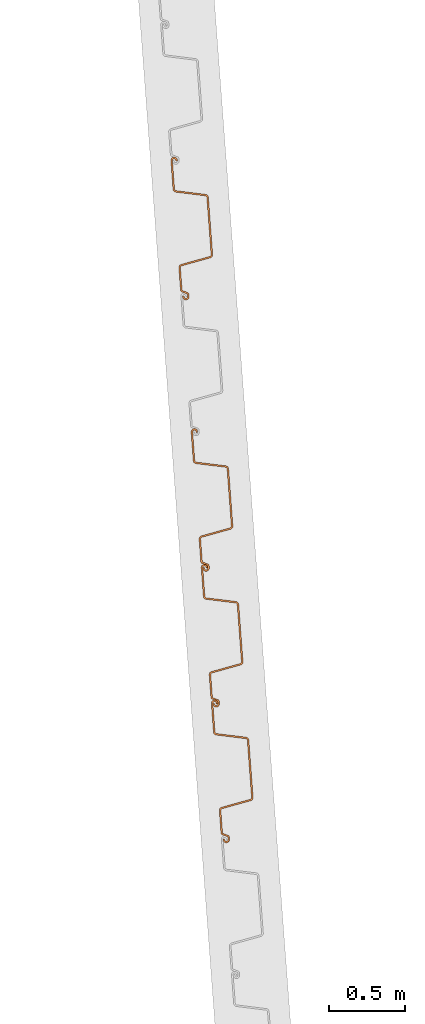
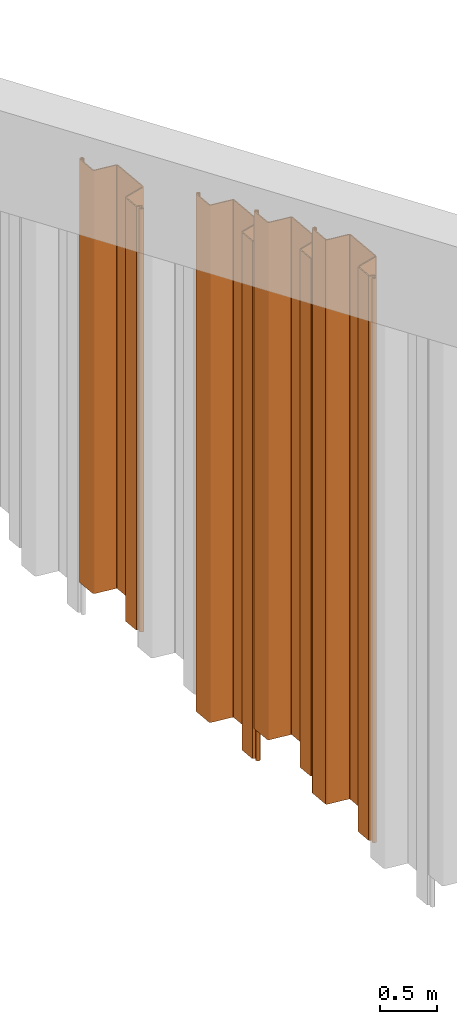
# One storey, part 6 of 15: 4 proxies.
"""IFC2X3 building model written with IfcOpenShell, lengths in millimetres."""

from ifc_helpers import new_model, entity, si_unit, converted_unit, derived_unit, direction, frame, frame_2d, origin, place, context, subcontext, project, spatial, polyline, circle_curve, parameter, trimmed, segment, composite_curve, outline, extrude, source, transform, mapped, material, type_object, type_shapes, element, save


model = new_model("IFC2X3")

# Units and contexts
model_context = context("Model", 3, precision=0.01, world=origin(), true_north=direction((6.12303176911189e-17, 1.0)))
body_context = subcontext(model_context, "Body", "Model", "MODEL_VIEW")
ifc_project = project(units=[si_unit("LENGTHUNIT", "METRE", prefix="MILLI"), si_unit("AREAUNIT", "SQUARE_METRE"), si_unit("VOLUMEUNIT", "CUBIC_METRE"), converted_unit("PLANEANGLEUNIT", "DEGREE", entity("IfcRatioMeasure", 0.0174532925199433), si_unit("PLANEANGLEUNIT", "RADIAN"), dimensions=[0, 0, 0, 0, 0, 0, 0]), si_unit("MASSUNIT", "GRAM", prefix="KILO"), derived_unit("MASSDENSITYUNIT", [(si_unit("MASSUNIT", "GRAM", prefix="KILO"), 1), (si_unit("LENGTHUNIT", "METRE"), -3)]), derived_unit("MOMENTOFINERTIAUNIT", [(si_unit("LENGTHUNIT", "METRE"), 4)]), si_unit("TIMEUNIT", "SECOND"), si_unit("FREQUENCYUNIT", "HERTZ"), si_unit("THERMODYNAMICTEMPERATUREUNIT", "DEGREE_CELSIUS"), derived_unit("THERMALTRANSMITTANCEUNIT", [(si_unit("MASSUNIT", "GRAM", prefix="KILO"), 1), (si_unit("THERMODYNAMICTEMPERATUREUNIT", "KELVIN"), -1), (si_unit("TIMEUNIT", "SECOND"), -3)]), derived_unit("VOLUMETRICFLOWRATEUNIT", [(si_unit("LENGTHUNIT", "METRE"), 3), (si_unit("TIMEUNIT", "SECOND"), -1)]), si_unit("ELECTRICCURRENTUNIT", "AMPERE"), si_unit("ELECTRICVOLTAGEUNIT", "VOLT"), si_unit("POWERUNIT", "WATT"), si_unit("FORCEUNIT", "NEWTON", prefix="KILO"), si_unit("ILLUMINANCEUNIT", "LUX"), si_unit("LUMINOUSFLUXUNIT", "LUMEN"), si_unit("LUMINOUSINTENSITYUNIT", "CANDELA"), derived_unit("USERDEFINED", [(si_unit("MASSUNIT", "GRAM", prefix="KILO"), -1), (si_unit("LENGTHUNIT", "METRE"), -2), (si_unit("TIMEUNIT", "SECOND"), 3), (si_unit("LUMINOUSFLUXUNIT", "LUMEN"), 1)]), derived_unit("LINEARVELOCITYUNIT", [(si_unit("LENGTHUNIT", "METRE"), 1), (si_unit("TIMEUNIT", "SECOND"), -1)]), si_unit("PRESSUREUNIT", "PASCAL"), derived_unit("USERDEFINED", [(si_unit("LENGTHUNIT", "METRE"), -2), (si_unit("MASSUNIT", "GRAM", prefix="KILO"), 1), (si_unit("TIMEUNIT", "SECOND"), -2)]), derived_unit("LINEARFORCEUNIT", [(si_unit("MASSUNIT", "GRAM", prefix="KILO"), 1), (si_unit("LENGTHUNIT", "METRE"), 1), (si_unit("TIMEUNIT", "SECOND"), -2), (si_unit("LENGTHUNIT", "METRE"), -1)]), derived_unit("PLANARFORCEUNIT", [(si_unit("MASSUNIT", "GRAM", prefix="KILO"), 1), (si_unit("LENGTHUNIT", "METRE"), 1), (si_unit("TIMEUNIT", "SECOND"), -2), (si_unit("LENGTHUNIT", "METRE"), -2)])], contexts=[model_context])

# Site, building, storey
site_placement = place(None, origin())
site = spatial("IfcSite", under=ifc_project, at=site_placement, Name="Default", CompositionType="ELEMENT")
building_placement = place(site_placement, origin())
building = spatial("IfcBuilding", under=site, at=building_placement, CompositionType="ELEMENT")
storey_placement = place(building_placement, frame((0.0, 0.0, 9500.0)))
storey = spatial("IfcBuildingStorey", under=building, at=storey_placement, Name="AP+9.500", CompositionType="ELEMENT", Elevation=9500.0)

# Proxies
ifc_material = material(Name="<Unnamed>")
building_element_proxy_type_1 = type_object("IfcBuildingElementProxyType", Name="鋼矢板10H型:鋼矢板10H型", PredefinedType="NOTDEFINED", material=ifc_material)
shared_shape_1 = source(origin(), body_context, "Body", "SweptSolid", [
    extrude(outline(composite_curve([segment(trimmed(circle_curve(frame_2d((85.3662976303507, 306.644432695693), x_axis=(0.422618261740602, 0.906307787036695)), 13.885714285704), [parameter(24.9999999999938)], [parameter(90.0000000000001)], True, "PARAMETER"), True, "CONTINUOUS"), segment(polyline([(72.7815666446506, 312.512789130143), (9.8129512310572, 177.476157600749)]), True, "CONTINUOUS"), segment(trimmed(circle_curve(frame_2d((29.3891994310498, 168.347603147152), x_axis=(0.422618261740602, 0.906307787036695)), 21.6), [parameter(90.0000000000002)], [parameter(168.69006752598)], True, "PARAMETER"), True, "CONTINUOUS"), segment(polyline([(16.598697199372, 150.941769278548), (175.329723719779, 34.2998683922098)]), True, "CONTINUOUS"), segment(trimmed(circle_curve(frame_2d((168.93447260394, 25.596951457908), x_axis=(0.422618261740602, 0.906307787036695)), 10.7999999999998), [parameter(270.0)], [parameter(348.690067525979)], True, "PARAMETER"), False, "CONTINUOUS"), segment(polyline([(178.722596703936, 21.0326742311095), (18.2974003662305, -323.000269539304)]), True, "CONTINUOUS"), segment(trimmed(circle_curve(frame_2d((8.50927626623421, -318.435992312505), x_axis=(0.422618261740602, 0.906307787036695)), 10.8), [parameter(191.30993247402)], [parameter(269.999999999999)], True, "PARAMETER"), False, "CONTINUOUS"), segment(polyline([(5.95324328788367, -328.929166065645), (-185.429973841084, -282.310113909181)]), True, "CONTINUOUS"), segment(trimmed(circle_curve(frame_2d((-190.542039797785, -303.296461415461), x_axis=(0.422618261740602, 0.906307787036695)), 21.6000000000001), [parameter(11.3099324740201)], [parameter(90.0000000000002)], True, "PARAMETER"), True, "CONTINUOUS"), segment(polyline([(-210.118287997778, -294.167906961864), (-290.330886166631, -466.184378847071)]), True, "CONTINUOUS"), segment(trimmed(circle_curve(frame_2d((-270.754637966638, -475.312933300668), x_axis=(0.422618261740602, 0.906307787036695)), 21.6), [parameter(90.0000000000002)], [parameter(269.999999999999)], True, "PARAMETER"), True, "CONTINUOUS"), segment(polyline([(-251.178389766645, -484.441487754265), (-249.065298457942, -479.909948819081)]), True, "CONTINUOUS"), segment(polyline([(-249.065298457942, -479.909948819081), (-258.853422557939, -475.345671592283)]), True, "CONTINUOUS"), segment(polyline([(-258.853422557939, -475.345671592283), (-260.966513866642, -479.877210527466)]), True, "CONTINUOUS"), segment(trimmed(circle_curve(frame_2d((-270.754637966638, -475.312933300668), x_axis=(0.422618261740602, 0.906307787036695)), 10.8), [parameter(90.0000000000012)], [parameter(270.0)], True, "PARAMETER"), False, "CONTINUOUS"), segment(polyline([(-280.542762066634, -470.748656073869), (-200.330163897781, -298.732184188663)]), True, "CONTINUOUS"), segment(trimmed(circle_curve(frame_2d((-190.542039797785, -303.296461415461), x_axis=(0.422618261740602, 0.906307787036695)), 10.8), [parameter(11.3099324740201)], [parameter(89.9999999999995)], True, "PARAMETER"), False, "CONTINUOUS"), segment(polyline([(-187.986006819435, -292.803287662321), (3.39721030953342, -339.422339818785)]), True, "CONTINUOUS"), segment(trimmed(circle_curve(frame_2d((8.50927626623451, -318.435992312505), x_axis=(0.422618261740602, 0.906307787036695)), 21.6), [parameter(191.30993247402)], [parameter(270.0)], True, "PARAMETER"), True, "CONTINUOUS"), segment(polyline([(28.0855244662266, -327.564546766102), (188.510720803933, 16.4683970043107)]), True, "CONTINUOUS"), segment(trimmed(circle_curve(frame_2d((168.93447260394, 25.5969514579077), x_axis=(0.422618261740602, 0.906307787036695)), 21.6), [parameter(270.0)], [parameter(348.69006752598)], True, "PARAMETER"), True, "CONTINUOUS"), segment(polyline([(181.724974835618, 43.0027853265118), (22.9939483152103, 159.644686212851)]), True, "CONTINUOUS"), segment(trimmed(circle_curve(frame_2d((29.3891994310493, 168.347603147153), x_axis=(0.422618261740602, 0.906307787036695)), 10.7999999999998), [parameter(89.9999999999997)], [parameter(168.690067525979)], True, "PARAMETER"), False, "CONTINUOUS"), segment(polyline([(19.6010753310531, 172.911880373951), (82.5696907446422, 307.948511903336)]), True, "CONTINUOUS"), segment(trimmed(circle_curve(frame_2d((85.3662976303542, 306.64443269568), x_axis=(0.422618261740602, 0.906307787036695)), 3.08571428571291), [parameter(25.0000000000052)], [parameter(90.0000000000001)], True, "PARAMETER"), False, "CONTINUOUS"), segment(polyline([(85.3662976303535, 309.730146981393), (122.220231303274, 309.730146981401)]), True, "CONTINUOUS"), segment(trimmed(circle_curve(frame_2d((122.220231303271, 323.615861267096), x_axis=(0.422618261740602, 0.906307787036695)), 13.8857142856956), [parameter(205.000000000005)], [parameter(270.0)], True, "PARAMETER"), True, "CONTINUOUS"), segment(polyline([(134.804962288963, 317.747504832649), (141.079261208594, 331.202782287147)]), True, "CONTINUOUS"), segment(trimmed(circle_curve(frame_2d((121.503013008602, 340.331336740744), x_axis=(0.422618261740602, 0.906307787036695)), 21.6), [parameter(270.0)], [parameter(90.0000000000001)], True, "PARAMETER"), True, "CONTINUOUS"), segment(polyline([(101.926764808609, 349.459891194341), (99.8136734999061, 344.928352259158)]), True, "CONTINUOUS"), segment(polyline([(99.8136734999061, 344.928352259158), (109.601797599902, 340.364075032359)]), True, "CONTINUOUS"), segment(polyline([(109.601797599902, 340.364075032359), (111.714888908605, 344.895613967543)]), True, "CONTINUOUS"), segment(trimmed(circle_curve(frame_2d((121.503013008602, 340.331336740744), x_axis=(0.422618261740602, 0.906307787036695)), 10.8), [parameter(270.0)], [parameter(89.9999999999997)], True, "PARAMETER"), False, "CONTINUOUS"), segment(polyline([(131.291137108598, 335.767059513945), (125.01683818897, 322.311782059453)]), True, "CONTINUOUS"), segment(trimmed(circle_curve(frame_2d((122.220231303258, 323.615861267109), x_axis=(0.422618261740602, 0.906307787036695)), 3.08571428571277), [parameter(204.999999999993)], [parameter(270.0)], True, "PARAMETER"), False, "CONTINUOUS"), segment(polyline([(122.220231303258, 320.530146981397), (85.3662976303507, 320.530146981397)]), True, "CONTINUOUS")], self_intersect=False)), frame((95.205667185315, -48.8888888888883, -4500.0), z_axis=(0.0, 0.0, -1.0), x_axis=(0.4226182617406, 0.906307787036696, 0.0)), (0.0, 0.0, -1.0), 4500.0),
])
type_shapes(building_element_proxy_type_1, [shared_shape_1])
proxy_1_placement = place(storey_placement, frame((-91400.2896402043, 20193.861543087, 809.453726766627), z_axis=(0.0, 0.0, 1.0), x_axis=(0.0743258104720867, -0.997234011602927, 0.0)))
element("IfcBuildingElementProxy", 1, at=proxy_1_placement, inside=storey, type_object=building_element_proxy_type_1, material=ifc_material, Name="鋼矢板10H型:鋼矢板10H型", ObjectType="鋼矢板10H型:鋼矢板10H型", context=body_context, shape_type="MappedRepresentation", body=[
    mapped(shared_shape_1, transform((0.0, 0.0, 0.0), scale=1.0)),
])
building_element_proxy_type_2 = type_object("IfcBuildingElementProxyType", Name="鋼矢板10H型:鋼矢板10H型", PredefinedType="NOTDEFINED", material=ifc_material)
shared_shape_2 = source(origin(), body_context, "Body", "SweptSolid", [
    extrude(outline(composite_curve([segment(trimmed(circle_curve(frame_2d((85.3662976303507, 306.644432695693), x_axis=(0.422618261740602, 0.906307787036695)), 13.885714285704), [parameter(24.9999999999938)], [parameter(90.0000000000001)], True, "PARAMETER"), True, "CONTINUOUS"), segment(polyline([(72.7815666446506, 312.512789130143), (9.8129512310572, 177.476157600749)]), True, "CONTINUOUS"), segment(trimmed(circle_curve(frame_2d((29.3891994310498, 168.347603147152), x_axis=(0.422618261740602, 0.906307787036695)), 21.6), [parameter(90.0000000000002)], [parameter(168.69006752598)], True, "PARAMETER"), True, "CONTINUOUS"), segment(polyline([(16.598697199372, 150.941769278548), (175.329723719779, 34.2998683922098)]), True, "CONTINUOUS"), segment(trimmed(circle_curve(frame_2d((168.93447260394, 25.596951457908), x_axis=(0.422618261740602, 0.906307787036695)), 10.7999999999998), [parameter(270.0)], [parameter(348.690067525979)], True, "PARAMETER"), False, "CONTINUOUS"), segment(polyline([(178.722596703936, 21.0326742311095), (18.2974003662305, -323.000269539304)]), True, "CONTINUOUS"), segment(trimmed(circle_curve(frame_2d((8.50927626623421, -318.435992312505), x_axis=(0.422618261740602, 0.906307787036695)), 10.8), [parameter(191.30993247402)], [parameter(269.999999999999)], True, "PARAMETER"), False, "CONTINUOUS"), segment(polyline([(5.95324328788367, -328.929166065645), (-185.429973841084, -282.310113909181)]), True, "CONTINUOUS"), segment(trimmed(circle_curve(frame_2d((-190.542039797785, -303.296461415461), x_axis=(0.422618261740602, 0.906307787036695)), 21.6000000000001), [parameter(11.3099324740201)], [parameter(90.0000000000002)], True, "PARAMETER"), True, "CONTINUOUS"), segment(polyline([(-210.118287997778, -294.167906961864), (-290.330886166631, -466.184378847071)]), True, "CONTINUOUS"), segment(trimmed(circle_curve(frame_2d((-270.754637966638, -475.312933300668), x_axis=(0.422618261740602, 0.906307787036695)), 21.6), [parameter(90.0000000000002)], [parameter(269.999999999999)], True, "PARAMETER"), True, "CONTINUOUS"), segment(polyline([(-251.178389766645, -484.441487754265), (-249.065298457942, -479.909948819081)]), True, "CONTINUOUS"), segment(polyline([(-249.065298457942, -479.909948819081), (-258.853422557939, -475.345671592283)]), True, "CONTINUOUS"), segment(polyline([(-258.853422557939, -475.345671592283), (-260.966513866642, -479.877210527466)]), True, "CONTINUOUS"), segment(trimmed(circle_curve(frame_2d((-270.754637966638, -475.312933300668), x_axis=(0.422618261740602, 0.906307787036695)), 10.8), [parameter(90.0000000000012)], [parameter(270.0)], True, "PARAMETER"), False, "CONTINUOUS"), segment(polyline([(-280.542762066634, -470.748656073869), (-200.330163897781, -298.732184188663)]), True, "CONTINUOUS"), segment(trimmed(circle_curve(frame_2d((-190.542039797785, -303.296461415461), x_axis=(0.422618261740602, 0.906307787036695)), 10.8), [parameter(11.3099324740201)], [parameter(89.9999999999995)], True, "PARAMETER"), False, "CONTINUOUS"), segment(polyline([(-187.986006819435, -292.803287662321), (3.39721030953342, -339.422339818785)]), True, "CONTINUOUS"), segment(trimmed(circle_curve(frame_2d((8.50927626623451, -318.435992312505), x_axis=(0.422618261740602, 0.906307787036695)), 21.6), [parameter(191.30993247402)], [parameter(270.0)], True, "PARAMETER"), True, "CONTINUOUS"), segment(polyline([(28.0855244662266, -327.564546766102), (188.510720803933, 16.4683970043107)]), True, "CONTINUOUS"), segment(trimmed(circle_curve(frame_2d((168.93447260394, 25.5969514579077), x_axis=(0.422618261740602, 0.906307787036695)), 21.6), [parameter(270.0)], [parameter(348.69006752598)], True, "PARAMETER"), True, "CONTINUOUS"), segment(polyline([(181.724974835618, 43.0027853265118), (22.9939483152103, 159.644686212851)]), True, "CONTINUOUS"), segment(trimmed(circle_curve(frame_2d((29.3891994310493, 168.347603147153), x_axis=(0.422618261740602, 0.906307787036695)), 10.7999999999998), [parameter(89.9999999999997)], [parameter(168.690067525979)], True, "PARAMETER"), False, "CONTINUOUS"), segment(polyline([(19.6010753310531, 172.911880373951), (82.5696907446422, 307.948511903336)]), True, "CONTINUOUS"), segment(trimmed(circle_curve(frame_2d((85.3662976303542, 306.64443269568), x_axis=(0.422618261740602, 0.906307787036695)), 3.08571428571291), [parameter(25.0000000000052)], [parameter(90.0000000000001)], True, "PARAMETER"), False, "CONTINUOUS"), segment(polyline([(85.3662976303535, 309.730146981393), (122.220231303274, 309.730146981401)]), True, "CONTINUOUS"), segment(trimmed(circle_curve(frame_2d((122.220231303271, 323.615861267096), x_axis=(0.422618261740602, 0.906307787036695)), 13.8857142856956), [parameter(205.000000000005)], [parameter(270.0)], True, "PARAMETER"), True, "CONTINUOUS"), segment(polyline([(134.804962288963, 317.747504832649), (141.079261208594, 331.202782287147)]), True, "CONTINUOUS"), segment(trimmed(circle_curve(frame_2d((121.503013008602, 340.331336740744), x_axis=(0.422618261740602, 0.906307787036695)), 21.6), [parameter(270.0)], [parameter(90.0000000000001)], True, "PARAMETER"), True, "CONTINUOUS"), segment(polyline([(101.926764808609, 349.459891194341), (99.8136734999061, 344.928352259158)]), True, "CONTINUOUS"), segment(polyline([(99.8136734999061, 344.928352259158), (109.601797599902, 340.364075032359)]), True, "CONTINUOUS"), segment(polyline([(109.601797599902, 340.364075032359), (111.714888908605, 344.895613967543)]), True, "CONTINUOUS"), segment(trimmed(circle_curve(frame_2d((121.503013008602, 340.331336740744), x_axis=(0.422618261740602, 0.906307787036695)), 10.8), [parameter(270.0)], [parameter(89.9999999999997)], True, "PARAMETER"), False, "CONTINUOUS"), segment(polyline([(131.291137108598, 335.767059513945), (125.01683818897, 322.311782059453)]), True, "CONTINUOUS"), segment(trimmed(circle_curve(frame_2d((122.220231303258, 323.615861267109), x_axis=(0.422618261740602, 0.906307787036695)), 3.08571428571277), [parameter(204.999999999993)], [parameter(270.0)], True, "PARAMETER"), False, "CONTINUOUS"), segment(polyline([(122.220231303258, 320.530146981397), (85.3662976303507, 320.530146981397)]), True, "CONTINUOUS")], self_intersect=False)), frame((95.205667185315, -48.8888888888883, -5500.0), z_axis=(0.0, 0.0, -1.0), x_axis=(0.4226182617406, 0.906307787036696, 0.0)), (0.0, 0.0, -1.0), 5500.0),
])
type_shapes(building_element_proxy_type_2, [shared_shape_2])
for number, where, z_axis, x_axis in (
    (2, (-91266.5031813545, 18398.8403222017, 1481.74177579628), (0.0, 0.0, 1.0), (0.0743258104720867, -0.997234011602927, 0.0)),
    (3, (-91199.6099519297, 17501.3297117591, 1817.8858003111), (0.0, 0.0, 1.0), (0.0743258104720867, -0.997234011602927, 0.0)),
):
    element("IfcBuildingElementProxy", number, at=place(storey_placement, frame(where, z_axis=z_axis, x_axis=x_axis)), inside=storey, type_object=building_element_proxy_type_2, material=ifc_material, Name="鋼矢板10H型:鋼矢板10H型", ObjectType="鋼矢板10H型:鋼矢板10H型", context=body_context, shape_type="MappedRepresentation", body=[
        mapped(shared_shape_2, transform((0.0, 0.0, 0.0), scale=1.0)),
    ])
building_element_proxy_type_3 = type_object("IfcBuildingElementProxyType", Name="鋼矢板10H型:鋼矢板10H型", PredefinedType="NOTDEFINED", material=ifc_material)
shared_shape_3 = source(origin(), body_context, "Body", "SweptSolid", [
    extrude(outline(composite_curve([segment(trimmed(circle_curve(frame_2d((85.3662976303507, 306.644432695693), x_axis=(0.422618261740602, 0.906307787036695)), 13.885714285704), [parameter(24.9999999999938)], [parameter(90.0000000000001)], True, "PARAMETER"), True, "CONTINUOUS"), segment(polyline([(72.7815666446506, 312.512789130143), (9.8129512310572, 177.476157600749)]), True, "CONTINUOUS"), segment(trimmed(circle_curve(frame_2d((29.3891994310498, 168.347603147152), x_axis=(0.422618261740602, 0.906307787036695)), 21.6), [parameter(90.0000000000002)], [parameter(168.69006752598)], True, "PARAMETER"), True, "CONTINUOUS"), segment(polyline([(16.598697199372, 150.941769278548), (175.329723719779, 34.2998683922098)]), True, "CONTINUOUS"), segment(trimmed(circle_curve(frame_2d((168.93447260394, 25.596951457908), x_axis=(0.422618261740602, 0.906307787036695)), 10.7999999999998), [parameter(270.0)], [parameter(348.690067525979)], True, "PARAMETER"), False, "CONTINUOUS"), segment(polyline([(178.722596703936, 21.0326742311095), (18.2974003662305, -323.000269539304)]), True, "CONTINUOUS"), segment(trimmed(circle_curve(frame_2d((8.50927626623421, -318.435992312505), x_axis=(0.422618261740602, 0.906307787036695)), 10.8), [parameter(191.30993247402)], [parameter(269.999999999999)], True, "PARAMETER"), False, "CONTINUOUS"), segment(polyline([(5.95324328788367, -328.929166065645), (-185.429973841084, -282.310113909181)]), True, "CONTINUOUS"), segment(trimmed(circle_curve(frame_2d((-190.542039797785, -303.296461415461), x_axis=(0.422618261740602, 0.906307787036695)), 21.6000000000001), [parameter(11.3099324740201)], [parameter(90.0000000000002)], True, "PARAMETER"), True, "CONTINUOUS"), segment(polyline([(-210.118287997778, -294.167906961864), (-290.330886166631, -466.184378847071)]), True, "CONTINUOUS"), segment(trimmed(circle_curve(frame_2d((-270.754637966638, -475.312933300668), x_axis=(0.422618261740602, 0.906307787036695)), 21.6), [parameter(90.0000000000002)], [parameter(269.999999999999)], True, "PARAMETER"), True, "CONTINUOUS"), segment(polyline([(-251.178389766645, -484.441487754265), (-249.065298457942, -479.909948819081)]), True, "CONTINUOUS"), segment(polyline([(-249.065298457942, -479.909948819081), (-258.853422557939, -475.345671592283)]), True, "CONTINUOUS"), segment(polyline([(-258.853422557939, -475.345671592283), (-260.966513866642, -479.877210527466)]), True, "CONTINUOUS"), segment(trimmed(circle_curve(frame_2d((-270.754637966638, -475.312933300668), x_axis=(0.422618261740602, 0.906307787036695)), 10.8), [parameter(90.0000000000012)], [parameter(270.0)], True, "PARAMETER"), False, "CONTINUOUS"), segment(polyline([(-280.542762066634, -470.748656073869), (-200.330163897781, -298.732184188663)]), True, "CONTINUOUS"), segment(trimmed(circle_curve(frame_2d((-190.542039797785, -303.296461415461), x_axis=(0.422618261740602, 0.906307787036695)), 10.8), [parameter(11.3099324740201)], [parameter(89.9999999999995)], True, "PARAMETER"), False, "CONTINUOUS"), segment(polyline([(-187.986006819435, -292.803287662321), (3.39721030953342, -339.422339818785)]), True, "CONTINUOUS"), segment(trimmed(circle_curve(frame_2d((8.50927626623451, -318.435992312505), x_axis=(0.422618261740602, 0.906307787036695)), 21.6), [parameter(191.30993247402)], [parameter(270.0)], True, "PARAMETER"), True, "CONTINUOUS"), segment(polyline([(28.0855244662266, -327.564546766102), (188.510720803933, 16.4683970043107)]), True, "CONTINUOUS"), segment(trimmed(circle_curve(frame_2d((168.93447260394, 25.5969514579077), x_axis=(0.422618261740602, 0.906307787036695)), 21.6), [parameter(270.0)], [parameter(348.69006752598)], True, "PARAMETER"), True, "CONTINUOUS"), segment(polyline([(181.724974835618, 43.0027853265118), (22.9939483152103, 159.644686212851)]), True, "CONTINUOUS"), segment(trimmed(circle_curve(frame_2d((29.3891994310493, 168.347603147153), x_axis=(0.422618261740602, 0.906307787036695)), 10.7999999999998), [parameter(89.9999999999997)], [parameter(168.690067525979)], True, "PARAMETER"), False, "CONTINUOUS"), segment(polyline([(19.6010753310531, 172.911880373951), (82.5696907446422, 307.948511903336)]), True, "CONTINUOUS"), segment(trimmed(circle_curve(frame_2d((85.3662976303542, 306.64443269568), x_axis=(0.422618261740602, 0.906307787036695)), 3.08571428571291), [parameter(25.0000000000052)], [parameter(90.0000000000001)], True, "PARAMETER"), False, "CONTINUOUS"), segment(polyline([(85.3662976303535, 309.730146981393), (122.220231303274, 309.730146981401)]), True, "CONTINUOUS"), segment(trimmed(circle_curve(frame_2d((122.220231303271, 323.615861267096), x_axis=(0.422618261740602, 0.906307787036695)), 13.8857142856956), [parameter(205.000000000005)], [parameter(270.0)], True, "PARAMETER"), True, "CONTINUOUS"), segment(polyline([(134.804962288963, 317.747504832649), (141.079261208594, 331.202782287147)]), True, "CONTINUOUS"), segment(trimmed(circle_curve(frame_2d((121.503013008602, 340.331336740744), x_axis=(0.422618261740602, 0.906307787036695)), 21.6), [parameter(270.0)], [parameter(90.0000000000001)], True, "PARAMETER"), True, "CONTINUOUS"), segment(polyline([(101.926764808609, 349.459891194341), (99.8136734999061, 344.928352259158)]), True, "CONTINUOUS"), segment(polyline([(99.8136734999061, 344.928352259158), (109.601797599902, 340.364075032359)]), True, "CONTINUOUS"), segment(polyline([(109.601797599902, 340.364075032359), (111.714888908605, 344.895613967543)]), True, "CONTINUOUS"), segment(trimmed(circle_curve(frame_2d((121.503013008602, 340.331336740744), x_axis=(0.422618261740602, 0.906307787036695)), 10.8), [parameter(270.0)], [parameter(89.9999999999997)], True, "PARAMETER"), False, "CONTINUOUS"), segment(polyline([(131.291137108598, 335.767059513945), (125.01683818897, 322.311782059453)]), True, "CONTINUOUS"), segment(trimmed(circle_curve(frame_2d((122.220231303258, 323.615861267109), x_axis=(0.422618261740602, 0.906307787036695)), 3.08571428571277), [parameter(204.999999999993)], [parameter(270.0)], True, "PARAMETER"), False, "CONTINUOUS"), segment(polyline([(122.220231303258, 320.530146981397), (85.3662976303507, 320.530146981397)]), True, "CONTINUOUS")], self_intersect=False)), frame((95.205667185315, -48.8888888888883, -6000.0), z_axis=(0.0, 0.0, -1.0), x_axis=(0.4226182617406, 0.906307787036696, 0.0)), (0.0, 0.0, -1.0), 6000.0),
])
type_shapes(building_element_proxy_type_3, [shared_shape_3])
proxy_2_placement = place(storey_placement, frame((-91132.7167225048, 16603.8191013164, 2154.02982482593), z_axis=(0.0, 0.0, 1.0), x_axis=(0.0743258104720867, -0.997234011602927, 0.0)))
element("IfcBuildingElementProxy", 4, at=proxy_2_placement, inside=storey, type_object=building_element_proxy_type_3, material=ifc_material, Name="鋼矢板10H型:鋼矢板10H型", ObjectType="鋼矢板10H型:鋼矢板10H型", context=body_context, shape_type="MappedRepresentation", body=[
    mapped(shared_shape_3, transform((0.0, 0.0, 0.0), scale=1.0)),
])

save(model, "model.ifc")
